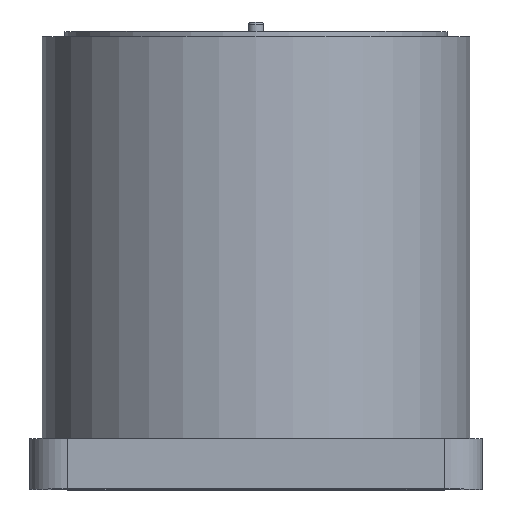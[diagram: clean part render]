
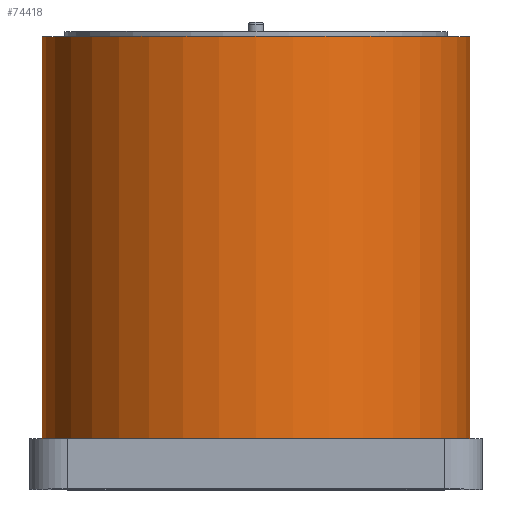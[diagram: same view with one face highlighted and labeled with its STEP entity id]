
A CAD part, top view. The second image highlights one B-rep face of the part: STEP entity #74418.
In plain terms, the highlighted cylindrical face has radius 42.5 mm (diameter 85 mm), a full revolution.
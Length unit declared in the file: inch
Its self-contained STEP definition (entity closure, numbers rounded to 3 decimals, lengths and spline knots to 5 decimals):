
#4398=FACE_BOUND('',#27826,.T.);
#4857=LINE('',#95104,#12237);
#4858=LINE('',#95107,#12238);
#12237=VECTOR('',#81644,0.3937);
#12238=VECTOR('',#81647,0.3937);
#19613=CYLINDRICAL_SURFACE('',#78477,1.67323);
#23814=FACE_OUTER_BOUND('',#27825,.T.);
#27825=EDGE_LOOP('',(#50663,#50664,#50665,#50666));
#27826=EDGE_LOOP('',(#50667));
#32254=CIRCLE('',#78475,1.67323);
#32256=CIRCLE('',#78478,1.67323);
#32257=CIRCLE('',#78479,1.67323);
#32678=VERTEX_POINT('',#95095);
#32680=VERTEX_POINT('',#95100);
#32681=VERTEX_POINT('',#95101);
#32682=VERTEX_POINT('',#95103);
#32683=VERTEX_POINT('',#95105);
#39872=EDGE_CURVE('',#32678,#32678,#32254,.T.);
#39874=EDGE_CURVE('',#32680,#32681,#32256,.T.);
#39875=EDGE_CURVE('',#32682,#32681,#4857,.T.);
#39876=EDGE_CURVE('',#32682,#32683,#32257,.T.);
#39877=EDGE_CURVE('',#32683,#32680,#4858,.T.);
#50663=ORIENTED_EDGE('',*,*,#39874,.T.);
#50664=ORIENTED_EDGE('',*,*,#39875,.F.);
#50665=ORIENTED_EDGE('',*,*,#39876,.T.);
#50666=ORIENTED_EDGE('',*,*,#39877,.T.);
#50667=ORIENTED_EDGE('',*,*,#39872,.T.);
#74418=ADVANCED_FACE('',(#23814,#4398),#19613,.T.);
#78475=AXIS2_PLACEMENT_3D('',#95096,#81636,#81637);
#78477=AXIS2_PLACEMENT_3D('',#95099,#81640,#81641);
#78478=AXIS2_PLACEMENT_3D('',#95102,#81642,#81643);
#78479=AXIS2_PLACEMENT_3D('',#95106,#81645,#81646);
#81636=DIRECTION('center_axis',(0.,-1.,0.));
#81637=DIRECTION('ref_axis',(0.,0.,
1.));
#81640=DIRECTION('center_axis',(0.,-1.,0.));
#81641=DIRECTION('ref_axis',(0.,0.,
1.));
#81642=DIRECTION('center_axis',(0.,1.,0.));
#81643=DIRECTION('ref_axis',(0.,0.,
1.));
#81644=DIRECTION('',(0.,-1.,0.));
#81645=DIRECTION('center_axis',(0.,1.,0.));
#81646=DIRECTION('ref_axis',(0.,0.,
1.));
#81647=DIRECTION('',(0.,-1.,0.));
#95095=CARTESIAN_POINT('',(0.,0.,-1.67323));
#95096=CARTESIAN_POINT('Origin',(0.,0.,
0.));
#95099=CARTESIAN_POINT('Origin',(0.,0.,
0.));
#95100=CARTESIAN_POINT('',(-1.67323,-3.14961,0.));
#95101=CARTESIAN_POINT('',(1.67323,-3.14961,0.));
#95102=CARTESIAN_POINT('Origin',(0.,-3.14961,
0.));
#95103=CARTESIAN_POINT('',(1.67323,-1.39764,0.));
#95104=CARTESIAN_POINT('',(1.67323,0.,0.));
#95105=CARTESIAN_POINT('',(-1.67323,-1.39764,0.));
#95106=CARTESIAN_POINT('Origin',(0.,-1.39764,
0.));
#95107=CARTESIAN_POINT('',(-1.67323,0.,0.));
